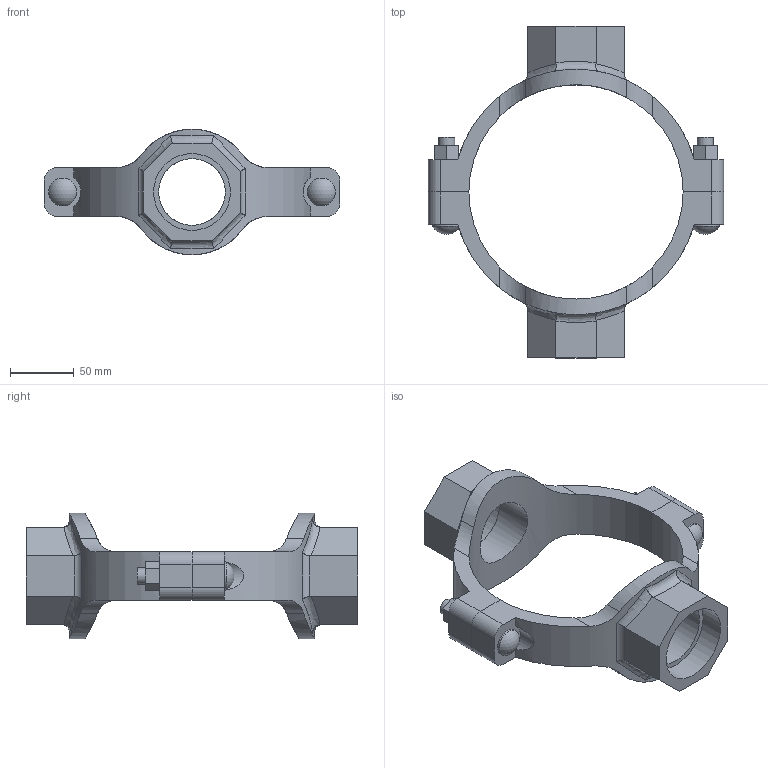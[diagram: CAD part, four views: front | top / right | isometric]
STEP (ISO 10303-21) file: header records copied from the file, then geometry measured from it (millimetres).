
FILE_DESCRIPTION(/* description */ ('VIC MECH-T BRANCH OUTLET CROSS STYLE 920N (THD)','CAx-IF Rec.Pracs.---Representation and Presentation of Product Manufacturing Information (PMI)---4.0---2014-10-13'),/* implementation_level */ '2;1');
FILE_NAME(/* name */ 'C:\Users\Vjadhav\AppData\Roaming\Autodesk\ApplicationPlugins\Back Up\Victaulic_IPS_Mechanical-Cross Outlet_Style 920N (FPT)\Victaulic_IPS_Mechanical-Cross Outlet_06.0x02.0x02.0 (150x50x50).stp',/* time_stamp */ '2020-08-06T18:59:37+05:00',/* author */ ('Vjadhav'),/* organization */ ('Victaulic'),/* preprocessor_version */ 'ST-DEVELOPER v17.2',/* originating_system */ 'Autodesk Inventor 2019',/* authorisation */ '');
FILE_SCHEMA (('AP242_MANAGED_MODEL_BASED_3D_ENGINEERING_MIM_LF { 1 0 10303 442 1 1 4 }'));
Length unit declared in the file: inch
Products named in the file (3): 920NT-06.0x02.0x02.0; 920NT-06.0x02.0; 920NT-06.0x02.0_1
Assembly tree (2 placements, depth 2):
  920NT-06.0x02.0x02.0
    920NT-06.0x02.0
    920NT-06.0x02.0_1
Bounding box: 231.9 x 260.6 x 98.55 mm (x, y, z)
Volume: 559062.8 mm3; surface area: 125280.4 mm2
Topology: 2 solids, 2 shells, 132 faces, 350 edges, 236 vertices
Faces by surface type: plane 68, cylinder 50, bspline 8, torus 4, sphere 2
Full cylindrical faces by diameter (mm): 12.7 x4, 21.982 x2, 52.387 x2, 60.325 x2
Entity records: 5218 total; most frequent: CARTESIAN_POINT 1705, ORIENTED_EDGE 700, DIRECTION 648, EDGE_CURVE 350, VERTEX_POINT 236, AXIS2_PLACEMENT_3D 231, LINE 186, VECTOR 186
